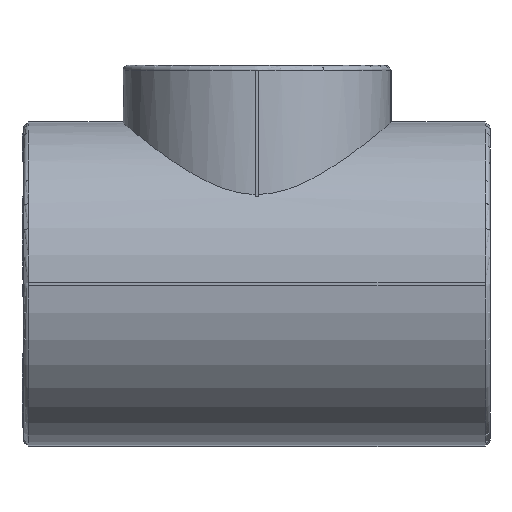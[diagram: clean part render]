
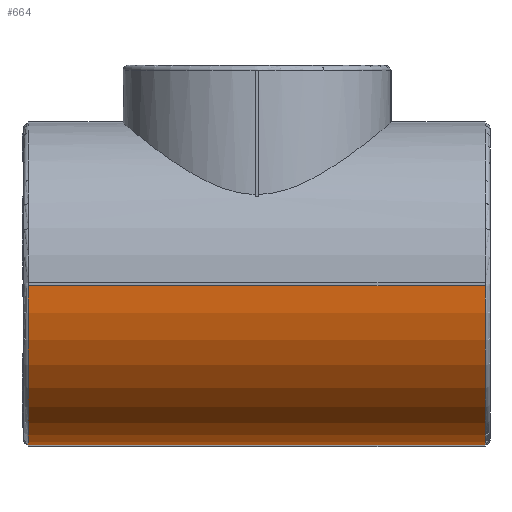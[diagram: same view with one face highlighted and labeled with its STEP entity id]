
A CAD part, left-side view. The second image highlights one B-rep face of the part: STEP entity #664.
In plain terms, the highlighted cylindrical face has radius 50 mm (diameter 100 mm), a partial arc.
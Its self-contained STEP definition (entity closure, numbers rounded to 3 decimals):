
#664=ADVANCED_FACE('',(#5160),#5162,.T.);
#5160=FACE_BOUND('',#5161,.T.);
#5161=EDGE_LOOP('',(#13092,#13093,#13094,#13095));
#5162=CYLINDRICAL_SURFACE('',#5163,50.);
#5163=AXIS2_PLACEMENT_3D('',#5164,#5165,#5166);
#5164=CARTESIAN_POINT('',(0.,-72.5,0.));
#5165=DIRECTION('',(0.,1.,0.));
#5166=DIRECTION('',(-1.,0.,0.));
#13092=ORIENTED_EDGE('',*,*,#18542,.F.);
#13093=ORIENTED_EDGE('',*,*,#18543,.T.);
#13094=ORIENTED_EDGE('',*,*,#18544,.F.);
#13095=ORIENTED_EDGE('',*,*,#18505,.F.);
#18505=EDGE_CURVE('',#22790,#22792,#22793,.T.);
#18542=EDGE_CURVE('',#22859,#22790,#22860,.T.);
#18543=EDGE_CURVE('',#22859,#22861,#22862,.T.);
#18544=EDGE_CURVE('',#22792,#22861,#22863,.F.);
#22790=VERTEX_POINT('',#31454);
#22792=VERTEX_POINT('',#31459);
#22793=CIRCLE('',#31460,50.);
#22859=VERTEX_POINT('',#31854);
#22860=LINE('',#31855,#31856);
#22861=VERTEX_POINT('',#31858);
#22862=CIRCLE('',#31859,50.);
#22863=LINE('',#31863,#31864);
#31454=CARTESIAN_POINT('',(-0.5,71.,-49.997));
#31459=CARTESIAN_POINT('',(-49.997,71.,-0.5));
#31460=AXIS2_PLACEMENT_3D('',#31461,#31462,#31463);
#31461=CARTESIAN_POINT('',(0.,71.,0.));
#31462=DIRECTION('',(0.,1.,0.));
#31463=DIRECTION('',(-0.01,0.,-1.));
#31854=CARTESIAN_POINT('',(-0.5,-71.,-49.997));
#31855=CARTESIAN_POINT('',(-0.5,-71.,-49.997));
#31856=VECTOR('',#31857,1.);
#31857=DIRECTION('',(0.,1.,0.));
#31858=CARTESIAN_POINT('',(-49.997,-71.,-0.5));
#31859=AXIS2_PLACEMENT_3D('',#31860,#31861,#31862);
#31860=CARTESIAN_POINT('',(0.,-71.,0.));
#31861=DIRECTION('',(0.,1.,0.));
#31862=DIRECTION('',(-0.01,0.,-1.));
#31863=CARTESIAN_POINT('',(-49.997,-71.,-0.5));
#31864=VECTOR('',#31865,1.);
#31865=DIRECTION('',(0.,1.,0.));
